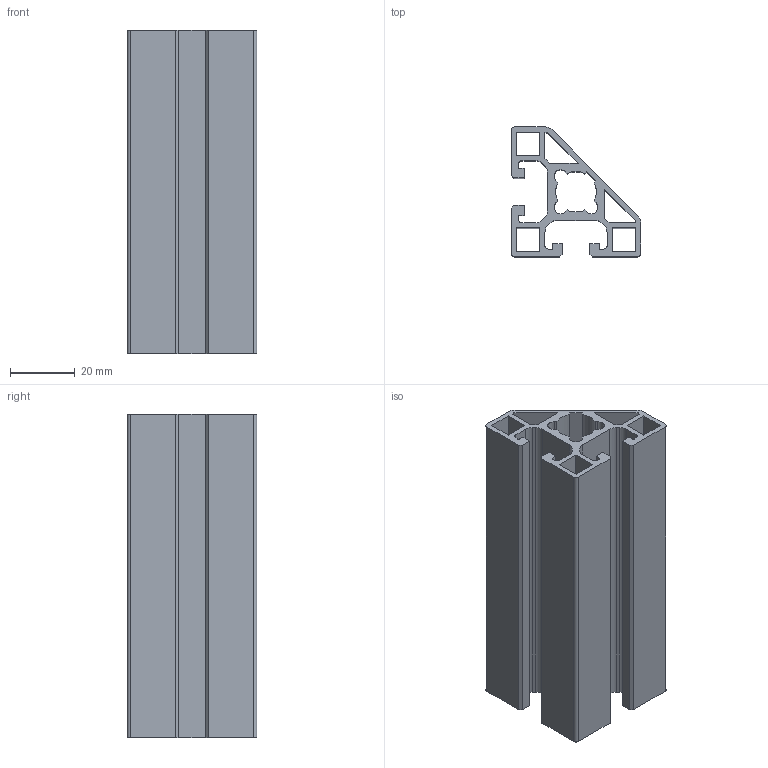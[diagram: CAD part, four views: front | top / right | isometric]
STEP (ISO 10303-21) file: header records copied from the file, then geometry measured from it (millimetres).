
FILE_DESCRIPTION((''),'2;1');
FILE_NAME('C:\Users\de2afr0\Desktop\New folder\MS40+ B 40x40 - 90.stp','2014-02-28T13:10:33',('de2afr0'),(''),'Autodesk Inventor 2011','Autodesk Inventor 2011','');
FILE_SCHEMA(('AUTOMOTIVE_DESIGN { 1 0 10303 214 1 1 1 1 }'));
Length unit declared in the file: millimetre
Products named in the file (1): MB01160001
Bounding box: 40 x 40 x 100 mm (x, y, z)
Volume: 44192.9 mm3; surface area: 44665.4 mm2
Topology: 1 solids, 1 shells, 98 faces, 288 edges, 192 vertices
Faces by surface type: plane 70, cylinder 28
Entity records: 3298 total; most frequent: CARTESIAN_POINT 579, ORIENTED_EDGE 576, DIRECTION 542, EDGE_CURVE 288, VECTOR 232, LINE 232, VERTEX_POINT 192, AXIS2_PLACEMENT_3D 155
